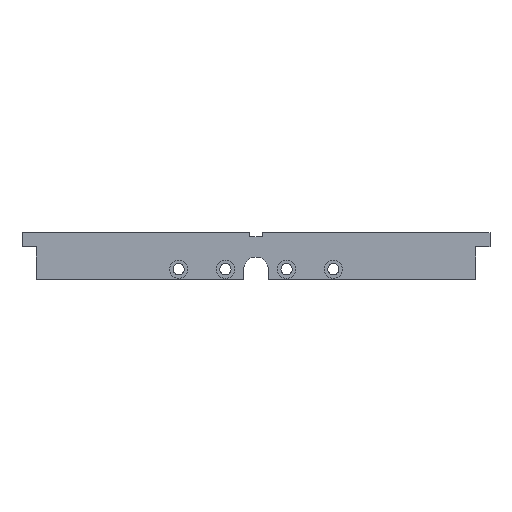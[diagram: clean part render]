
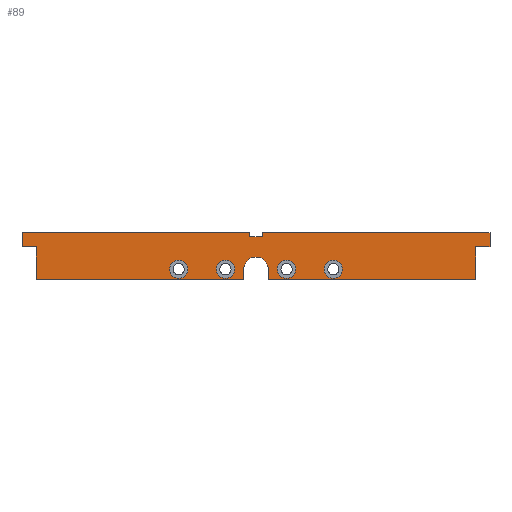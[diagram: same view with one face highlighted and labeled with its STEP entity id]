
A CAD part, left-side view. The second image highlights one B-rep face of the part: STEP entity #89.
In plain terms, the highlighted planar face has unit normal (-1, 0, 0).
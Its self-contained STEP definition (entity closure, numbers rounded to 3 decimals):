
#89=ADVANCED_FACE('',(#1515,#1517,#1519,#1521,#1523),#1525,.T.);
#1515=FACE_BOUND('',#1516,.T.);
#1516=EDGE_LOOP('',(#2925,#2926,#2927,#2928,#2929,#2930,#2931,#2932,#2933,#2934,
#2935,#2936,#2937,#2938,#2939,#2940));
#1517=FACE_BOUND('',#1518,.T.);
#1518=EDGE_LOOP('',(#2941));
#1519=FACE_BOUND('',#1520,.T.);
#1520=EDGE_LOOP('',(#2942));
#1521=FACE_BOUND('',#1522,.T.);
#1522=EDGE_LOOP('',(#2943));
#1523=FACE_BOUND('',#1524,.T.);
#1524=EDGE_LOOP('',(#2944));
#1525=PLANE('',#1526);
#1526=AXIS2_PLACEMENT_3D('',#1527,#1528,#1529);
#1527=CARTESIAN_POINT('',(-45.,-10.,-16.));
#1528=DIRECTION('',(-1.,0.,0.));
#1529=DIRECTION('',(0.,0.,1.));
#2925=ORIENTED_EDGE('',*,*,#3633,.T.);
#2926=ORIENTED_EDGE('',*,*,#3634,.T.);
#2927=ORIENTED_EDGE('',*,*,#3635,.F.);
#2928=ORIENTED_EDGE('',*,*,#3636,.T.);
#2929=ORIENTED_EDGE('',*,*,#3637,.T.);
#2930=ORIENTED_EDGE('',*,*,#3638,.T.);
#2931=ORIENTED_EDGE('',*,*,#3639,.F.);
#2932=ORIENTED_EDGE('',*,*,#3599,.T.);
#2933=ORIENTED_EDGE('',*,*,#3612,.T.);
#2934=ORIENTED_EDGE('',*,*,#3640,.T.);
#2935=ORIENTED_EDGE('',*,*,#3641,.T.);
#2936=ORIENTED_EDGE('',*,*,#3642,.T.);
#2937=ORIENTED_EDGE('',*,*,#3643,.T.);
#2938=ORIENTED_EDGE('',*,*,#3644,.T.);
#2939=ORIENTED_EDGE('',*,*,#3645,.T.);
#2940=ORIENTED_EDGE('',*,*,#3646,.F.);
#2941=ORIENTED_EDGE('',*,*,#3647,.T.);
#2942=ORIENTED_EDGE('',*,*,#3648,.T.);
#2943=ORIENTED_EDGE('',*,*,#3649,.T.);
#2944=ORIENTED_EDGE('',*,*,#3650,.T.);
#3599=EDGE_CURVE('',#3958,#3956,#3959,.T.);
#3612=EDGE_CURVE('',#3956,#3981,#3983,.F.);
#3633=EDGE_CURVE('',#4023,#4024,#4025,.F.);
#3634=EDGE_CURVE('',#4024,#4026,#4027,.T.);
#3635=EDGE_CURVE('',#4028,#4026,#4029,.T.);
#3636=EDGE_CURVE('',#4028,#4030,#4031,.T.);
#3637=EDGE_CURVE('',#4030,#4032,#4033,.T.);
#3638=EDGE_CURVE('',#4032,#4034,#4035,.T.);
#3639=EDGE_CURVE('',#3958,#4034,#4036,.T.);
#3640=EDGE_CURVE('',#3981,#4037,#4038,.T.);
#3641=EDGE_CURVE('',#4037,#4039,#4040,.T.);
#3642=EDGE_CURVE('',#4039,#4041,#4042,.F.);
#3643=EDGE_CURVE('',#4041,#4043,#4044,.T.);
#3644=EDGE_CURVE('',#4043,#4045,#4046,.F.);
#3645=EDGE_CURVE('',#4045,#4047,#4048,.T.);
#3646=EDGE_CURVE('',#4023,#4047,#4049,.T.);
#3647=EDGE_CURVE('',#4050,#4050,#4051,.F.);
#3648=EDGE_CURVE('',#4052,#4052,#4053,.F.);
#3649=EDGE_CURVE('',#4054,#4054,#4055,.F.);
#3650=EDGE_CURVE('',#4056,#4056,#4057,.F.);
#3956=VERTEX_POINT('',#4594);
#3958=VERTEX_POINT('',#4598);
#3959=LINE('',#4599,#4600);
#3981=VERTEX_POINT('',#4647);
#3983=LINE('',#4651,#4652);
#4023=VERTEX_POINT('',#4746);
#4024=VERTEX_POINT('',#4747);
#4025=LINE('',#4748,#4749);
#4026=VERTEX_POINT('',#4751);
#4027=LINE('',#4752,#4753);
#4028=VERTEX_POINT('',#4755);
#4029=LINE('',#4756,#4757);
#4030=VERTEX_POINT('',#4759);
#4031=LINE('',#4760,#4761);
#4032=VERTEX_POINT('',#4763);
#4033=CIRCLE('',#4764,6.);
#4034=VERTEX_POINT('',#4768);
#4035=LINE('',#4769,#4770);
#4036=LINE('',#4772,#4773);
#4037=VERTEX_POINT('',#4775);
#4038=LINE('',#4776,#4777);
#4039=VERTEX_POINT('',#4779);
#4040=LINE('',#4780,#4781);
#4041=VERTEX_POINT('',#4783);
#4042=LINE('',#4784,#4785);
#4043=VERTEX_POINT('',#4787);
#4044=LINE('',#4788,#4789);
#4045=VERTEX_POINT('',#4791);
#4046=LINE('',#4792,#4793);
#4047=VERTEX_POINT('',#4795);
#4048=LINE('',#4796,#4797);
#4049=LINE('',#4799,#4800);
#4050=VERTEX_POINT('',#4802);
#4051=CIRCLE('',#4803,4.5);
#4052=VERTEX_POINT('',#4807);
#4053=CIRCLE('',#4808,4.5);
#4054=VERTEX_POINT('',#4812);
#4055=CIRCLE('',#4813,4.5);
#4056=VERTEX_POINT('',#4817);
#4057=CIRCLE('',#4818,4.5);
#4594=CARTESIAN_POINT('',(-45.,-3.,0.));
#4598=CARTESIAN_POINT('',(-45.,-3.,-16.));
#4599=CARTESIAN_POINT('',(-45.,-3.,-16.));
#4600=VECTOR('',#4601,1.);
#4601=DIRECTION('',(0.,0.,1.));
#4647=CARTESIAN_POINT('',(-45.,-10.,0.));
#4651=CARTESIAN_POINT('',(-45.,-10.,0.));
#4652=VECTOR('',#4653,1.);
#4653=DIRECTION('',(0.,1.,0.));
#4746=CARTESIAN_POINT('',(-45.,220.,0.));
#4747=CARTESIAN_POINT('',(-45.,213.,0.));
#4748=CARTESIAN_POINT('',(-45.,213.,0.));
#4749=VECTOR('',#4750,1.);
#4750=DIRECTION('',(0.,1.,0.));
#4751=CARTESIAN_POINT('',(-45.,213.,-16.));
#4752=CARTESIAN_POINT('',(-45.,213.,0.));
#4753=VECTOR('',#4754,1.);
#4754=DIRECTION('',(0.,0.,-1.));
#4755=CARTESIAN_POINT('',(-45.,111.,-16.));
#4756=CARTESIAN_POINT('',(-45.,111.,-16.));
#4757=VECTOR('',#4758,1.);
#4758=DIRECTION('',(0.,1.,0.));
#4759=CARTESIAN_POINT('',(-45.,111.,-11.));
#4760=CARTESIAN_POINT('',(-45.,111.,-16.));
#4761=VECTOR('',#4762,1.);
#4762=DIRECTION('',(0.,0.,1.));
#4763=CARTESIAN_POINT('',(-45.,99.,-11.));
#4764=AXIS2_PLACEMENT_3D('',#4765,#4766,#4767);
#4765=CARTESIAN_POINT('',(-45.,105.,-11.));
#4766=DIRECTION('',(1.,0.,0.));
#4767=DIRECTION('',(0.,1.,0.));
#4768=CARTESIAN_POINT('',(-45.,99.,-16.));
#4769=CARTESIAN_POINT('',(-45.,99.,-11.));
#4770=VECTOR('',#4771,1.);
#4771=DIRECTION('',(0.,0.,-1.));
#4772=CARTESIAN_POINT('',(-45.,-3.,-16.));
#4773=VECTOR('',#4774,1.);
#4774=DIRECTION('',(0.,1.,0.));
#4775=CARTESIAN_POINT('',(-45.,-10.,7.));
#4776=CARTESIAN_POINT('',(-45.,-10.,0.));
#4777=VECTOR('',#4778,1.);
#4778=DIRECTION('',(0.,0.,1.));
#4779=CARTESIAN_POINT('',(-45.,102.,7.));
#4780=CARTESIAN_POINT('',(-45.,-10.,7.));
#4781=VECTOR('',#4782,1.);
#4782=DIRECTION('',(0.,1.,0.));
#4783=CARTESIAN_POINT('',(-45.,102.,5.));
#4784=CARTESIAN_POINT('',(-45.,102.,5.));
#4785=VECTOR('',#4786,1.);
#4786=DIRECTION('',(0.,0.,1.));
#4787=CARTESIAN_POINT('',(-45.,108.,5.));
#4788=CARTESIAN_POINT('',(-45.,102.,5.));
#4789=VECTOR('',#4790,1.);
#4790=DIRECTION('',(0.,1.,0.));
#4791=CARTESIAN_POINT('',(-45.,108.,7.));
#4792=CARTESIAN_POINT('',(-45.,108.,7.));
#4793=VECTOR('',#4794,1.);
#4794=DIRECTION('',(0.,0.,-1.));
#4795=CARTESIAN_POINT('',(-45.,220.,7.));
#4796=CARTESIAN_POINT('',(-45.,108.,7.));
#4797=VECTOR('',#4798,1.);
#4798=DIRECTION('',(0.,1.,0.));
#4799=CARTESIAN_POINT('',(-45.,220.,0.));
#4800=VECTOR('',#4801,1.);
#4801=DIRECTION('',(0.,0.,1.));
#4802=CARTESIAN_POINT('',(-45.,138.5,-11.));
#4803=AXIS2_PLACEMENT_3D('',#4804,#4805,#4806);
#4804=CARTESIAN_POINT('',(-45.,143.,-11.));
#4805=DIRECTION('',(-1.,0.,0.));
#4806=DIRECTION('',(0.,-1.,0.));
#4807=CARTESIAN_POINT('',(-45.,115.5,-11.));
#4808=AXIS2_PLACEMENT_3D('',#4809,#4810,#4811);
#4809=CARTESIAN_POINT('',(-45.,120.,-11.));
#4810=DIRECTION('',(-1.,0.,0.));
#4811=DIRECTION('',(0.,-1.,0.));
#4812=CARTESIAN_POINT('',(-45.,85.5,-11.));
#4813=AXIS2_PLACEMENT_3D('',#4814,#4815,#4816);
#4814=CARTESIAN_POINT('',(-45.,90.,-11.));
#4815=DIRECTION('',(-1.,0.,0.));
#4816=DIRECTION('',(0.,-1.,0.));
#4817=CARTESIAN_POINT('',(-45.,62.5,-11.));
#4818=AXIS2_PLACEMENT_3D('',#4819,#4820,#4821);
#4819=CARTESIAN_POINT('',(-45.,67.,-11.));
#4820=DIRECTION('',(-1.,0.,0.));
#4821=DIRECTION('',(0.,-1.,0.));
